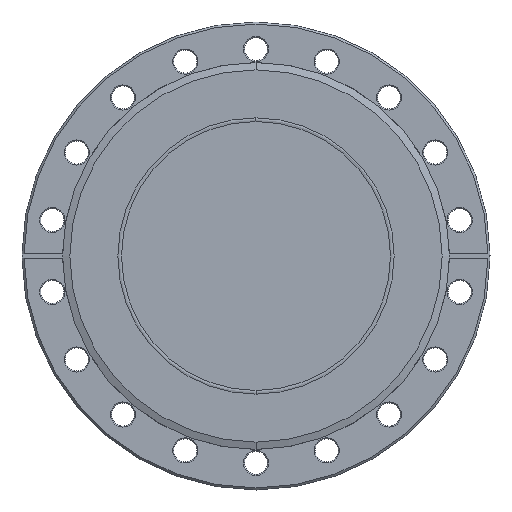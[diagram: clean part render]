
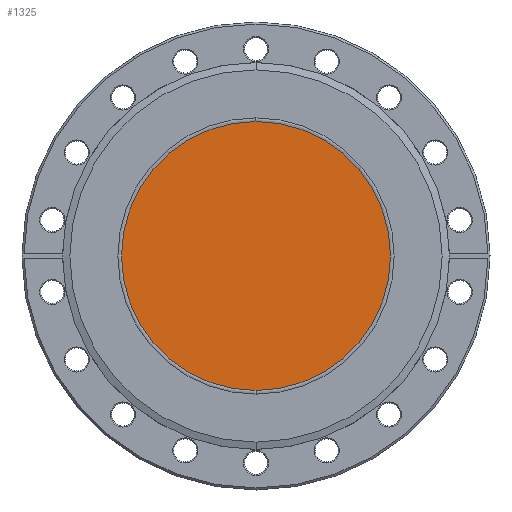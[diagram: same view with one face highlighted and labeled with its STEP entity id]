
A CAD part, front view. The second image highlights one B-rep face of the part: STEP entity #1325.
In plain terms, the highlighted planar face has unit normal (0, -1, 0).
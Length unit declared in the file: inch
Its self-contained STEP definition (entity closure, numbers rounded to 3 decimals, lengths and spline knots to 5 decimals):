
#245 = EDGE_CURVE ( 'NONE', #4018, #4034, #1627, .T. ) ;
#249 = EDGE_CURVE ( 'NONE', #4034, #4018, #1616, .T. ) ;
#441 = AXIS2_PLACEMENT_3D ( 'NONE', #890, #749, #825 ) ;
#443 = AXIS2_PLACEMENT_3D ( 'NONE', #794, #819, #857 ) ;
#707 = EDGE_LOOP ( 'NONE', ( #1652, #2277 ) ) ;
#749 = DIRECTION ( 'NONE',  ( 0., -1., 0. ) ) ;
#794 = CARTESIAN_POINT ( 'NONE',  ( 0., 0.516, 0. ) ) ;
#819 = DIRECTION ( 'NONE',  ( 0., -1., 0. ) ) ;
#825 = DIRECTION ( 'NONE',  ( 0., 0., -1. ) ) ;
#857 = DIRECTION ( 'NONE',  ( 0., 0., -1. ) ) ;
#890 = CARTESIAN_POINT ( 'NONE',  ( 0., 0.516, 0. ) ) ;
#1243 = AXIS2_PLACEMENT_3D ( 'NONE', #3372, #3377, #3378 ) ;
#1325 = ADVANCED_FACE ( 'NONE', ( #3181 ), #3374, .F. ) ;
#1616 = CIRCLE ( 'NONE', #443, 1.94 ) ;
#1627 = CIRCLE ( 'NONE', #441, 1.94 ) ;
#1652 = ORIENTED_EDGE ( 'NONE', *, *, #245, .T. ) ;
#2277 = ORIENTED_EDGE ( 'NONE', *, *, #249, .T. ) ;
#2905 = CARTESIAN_POINT ( 'NONE',  ( 0., 0.516, -1.94 ) ) ;
#2923 = CARTESIAN_POINT ( 'NONE',  ( 0., 0.516, 1.94 ) ) ;
#3181 = FACE_OUTER_BOUND ( 'NONE', #707, .T. ) ;
#3372 = CARTESIAN_POINT ( 'NONE',  ( 0., 0.516, 0. ) ) ;
#3374 = PLANE ( 'NONE',  #1243 ) ;
#3377 = DIRECTION ( 'NONE',  ( 0., 1., 0. ) ) ;
#3378 = DIRECTION ( 'NONE',  ( 0., 0., 1. ) ) ;
#4018 = VERTEX_POINT ( 'NONE', #2905 ) ;
#4034 = VERTEX_POINT ( 'NONE', #2923 ) ;
